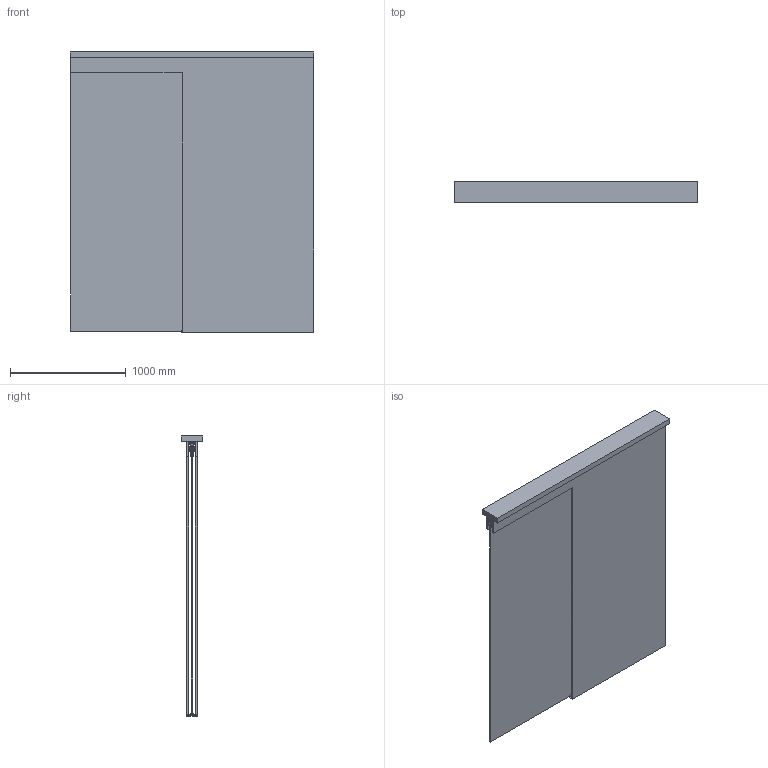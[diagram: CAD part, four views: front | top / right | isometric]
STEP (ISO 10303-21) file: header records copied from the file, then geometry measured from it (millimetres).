
FILE_DESCRIPTION(('STEP AP242'),'1');
FILE_NAME('OPO_65.084.17.stp','2026-02-23T17:30:10',(' '),(' '),'Spatial InterOp 3D',' ',' ');
FILE_SCHEMA(('AP242_MANAGED_MODEL_BASED_3D_ENGINEERING_MIM_LF {1 0 10303 442 1 1 4}'));
Length unit declared in the file: millimetre
Products named in the file (13): Zeichnung1; OPO_65.084.17_Aufhaengung_Glas_mit_Glasbearbeitung_E_Space; OPO_65.084.17_Magnetantrieb_Teil1; OPO_65.084.17_Magnetantrieb_Teil2; OPO_65.084.17_Magnetantrieb_Teil3; OPO_65.084.17_Magnetantrieb_Teil4; OPO_65.084.17_Magnetantrieb_Teil5; OPO_65.084.17_Magnetantrieb_Teil6; OPO_65.084.17_Magnetantrieb_Teil7; OPO_65.084.17_Magnetantrieb_Teil8; OPO_65.084.32; OPO_65.084.17_Bodenfuehrung_Pocket_Glas; AutoCreatedBlock_15C
Assembly tree (14 placements, depth 2):
  Zeichnung1
    OPO_65.084.17_Aufhaengung_Glas_mit_Glasbearbeitung_E_Space  x2
    OPO_65.084.17_Magnetantrieb_Teil1
    OPO_65.084.17_Magnetantrieb_Teil2
    OPO_65.084.17_Magnetantrieb_Teil3
    OPO_65.084.17_Magnetantrieb_Teil4
    OPO_65.084.17_Magnetantrieb_Teil5  x2
    OPO_65.084.17_Magnetantrieb_Teil6
    OPO_65.084.17_Magnetantrieb_Teil7
    OPO_65.084.17_Magnetantrieb_Teil8
    OPO_65.084.32
    OPO_65.084.17_Bodenfuehrung_Pocket_Glas
    AutoCreatedBlock_15C
Bounding box: 2100 x 188 x 2418 mm (x, y, z)
Volume: 152130209.2 mm3; surface area: 18916553.9 mm2
Topology: 74 solids, 74 shells, 2005 faces, 5253 edges, 3474 vertices
Faces by surface type: plane 1280, cylinder 723, cone 2
Entity records: 67093 total; most frequent: CARTESIAN_POINT 9694, DIRECTION 9100, ORIENTED_EDGE 8960, EDGE_CURVE 4480, LINE 3236, VECTOR 3236, VERTEX_POINT 2966, AXIS2_PLACEMENT_3D 2932
